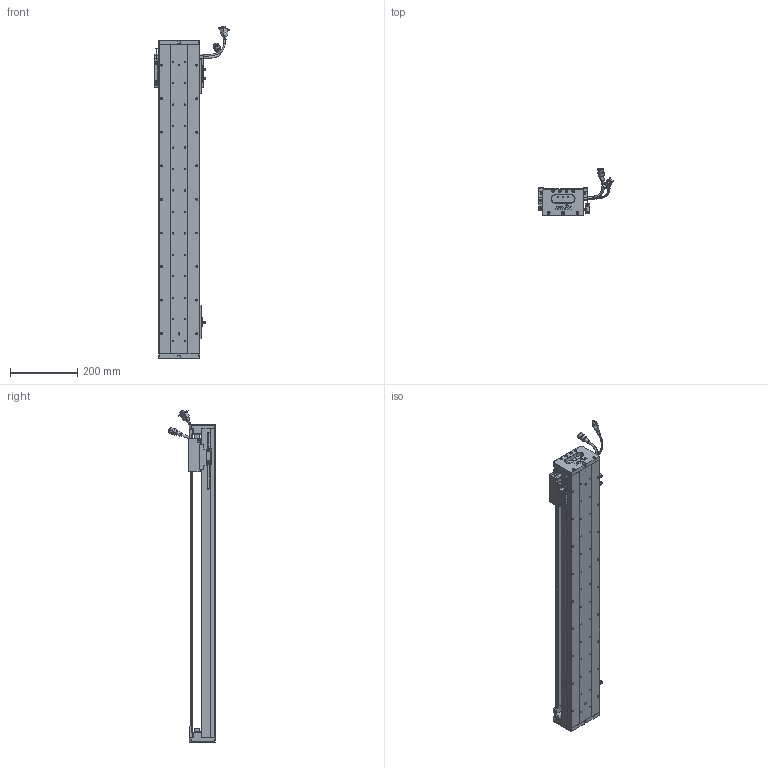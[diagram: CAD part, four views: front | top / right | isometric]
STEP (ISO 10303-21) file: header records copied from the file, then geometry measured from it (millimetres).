
FILE_DESCRIPTION (( 'STEP AP203' ), '1' );
FILE_NAME ('Z1-RY120D-1-L500-B-K.SLDASM_0750.step', '2021-05-17T03:45:23', ( '盈信电脑' ), ( '东莞市道滘镇水果街19号' ), 'SwSTEP 2.0', 'SolidWorks 2016', '' );
FILE_SCHEMA (( 'CONFIG_CONTROL_DESIGN' ));
Length unit declared in the file: millimetre
Products named in the file (37): COVER-Part-1; 140雄赽晤鎢ん堤盄; Z-RY120D詩湍狟揤裔; SCREW-M1.6-1; 140蚥薯蝶輸; SCREW-M1.6-2; SCALE-Part-2; Z1-RY120-500-倰第菁釱_0750; HOLDER0; SCREW-M1.7; 榋妏寠巭燃_暯_M2_2; Z1-RY120铝滑块（21款）; HARNESS-Part-2; 080黍杅芛假蚾釱21遴; Z1-RY120-L500詩湍100mm遵_0750; RY100FB-遵嫖萇覜茼え; 覜茼ん672; 672嫖萇羲壽假蚾釱; PBU_SHEET; SCREW-M1.6-3; Z-RY120D詩湍奻揤裔; HARNESS-Part-1; SCALE; SCREW-M1.7-1; SCALE-Part-1; LABEL; COVER; HARNESS; LABEL-Part-1; SCREW-M1.6; PSLH080_PSLF2; Z-120詩湍傷裔啣; SEAL; SEAL-Part-1; Z1-RY120D-1-L500-B-K.SLDASM_0750; SHIELDPLATE; 120-Z-臏賑輸盄裔(21遴)
Assembly tree (43 placements, depth 4):
  Z1-RY120D-1-L500-B-K.SLDASM_0750
    Z1-RY120-500-倰第菁釱_0750
    覜茼ん672  x3
    672嫖萇羲壽假蚾釱  x2
    Z1-RY120铝滑块（21款）
    PSLH080_PSLF2
      SCALE
        SCALE-Part-1
        SCALE-Part-2
      HARNESS
        HARNESS-Part-1
        HARNESS-Part-2
      LABEL
        LABEL-Part-1
      COVER
        COVER-Part-1
      SEAL
        SEAL-Part-1
      榋妏寠巭燃_暯_M2_2
      SHIELDPLATE
      SCREW-M1.7
      SCREW-M1.7-1
      PBU_SHEET
      SCREW-M1.6
      SCREW-M1.6-1
      SCREW-M1.6-2
      SCREW-M1.6-3
      HOLDER0
    080黍杅芛假蚾釱21遴
    120-Z-臏賑輸盄裔(21遴)
    140雄赽晤鎢ん堤盄
    140蚥薯蝶輸  x2
    RY100FB-遵嫖萇覜茼え
    Z-120詩湍傷裔啣  x2
    Z-RY120D詩湍奻揤裔  x2
    Z-RY120D詩湍狟揤裔  x2
    Z1-RY120-L500詩湍100mm遵_0750
Bounding box: 222.88 x 140.94 x 989 mm (x, y, z)
Volume: 2550238.7 mm3; surface area: 892166.1 mm2
Topology: 38 solids, 38 shells, 2673 faces, 7204 edges, 4554 vertices
Faces by surface type: cylinder 1190, plane 1103, cone 258, torus 69, bspline 53
Entity records: 79503 total; most frequent: CARTESIAN_POINT 21116, ORIENTED_EDGE 11416, DIRECTION 11216, EDGE_CURVE 5708, AXIS2_PLACEMENT_3D 4076, VERTEX_POINT 3674, LINE 3064, VECTOR 3064
